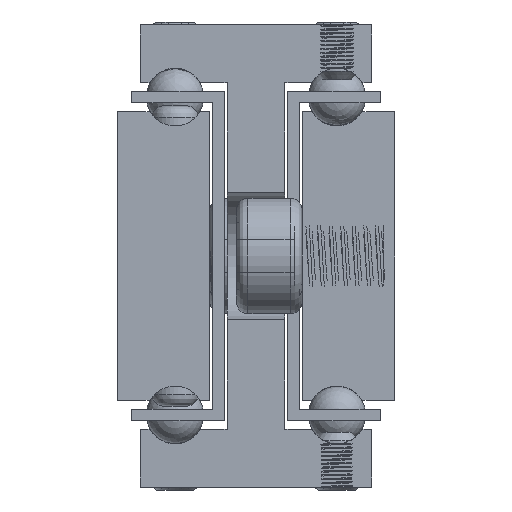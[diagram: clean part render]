
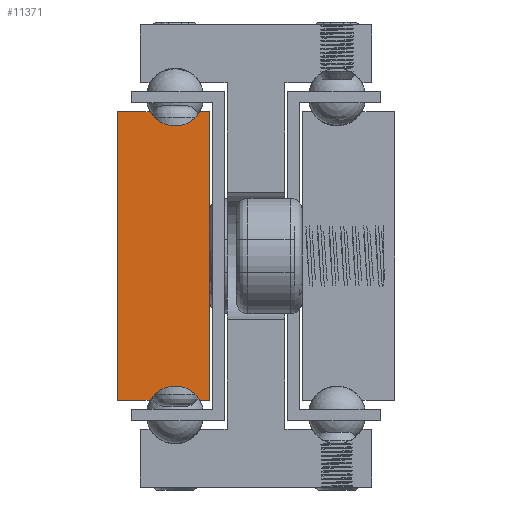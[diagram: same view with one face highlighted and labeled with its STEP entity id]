
A CAD part, front view. The second image highlights one B-rep face of the part: STEP entity #11371.
In plain terms, the highlighted planar face has unit normal (0, -1, 0).
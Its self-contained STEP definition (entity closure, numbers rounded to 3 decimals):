
#598=LINE('',#16082,#1672);
#601=LINE('',#16088,#1675);
#605=LINE('',#16100,#1679);
#608=LINE('',#16106,#1682);
#611=LINE('',#16112,#1685);
#615=LINE('',#16122,#1689);
#1672=VECTOR('',#13146,1.);
#1675=VECTOR('',#13151,1.);
#1679=VECTOR('',#13163,1.);
#1682=VECTOR('',#13168,1.);
#1685=VECTOR('',#13173,1.);
#1689=VECTOR('',#13185,1.);
#2751=PLANE('',#12203);
#3477=FACE_OUTER_BOUND('',#4197,.T.);
#4197=EDGE_LOOP('',(#8216,#8217,#8218,#8219,#8220,#8221,#8222,#8223));
#5145=CIRCLE('',#12194,2.5);
#5147=CIRCLE('',#12200,2.5);
#5432=VERTEX_POINT('',#16079);
#5433=VERTEX_POINT('',#16081);
#5435=VERTEX_POINT('',#16087);
#5437=VERTEX_POINT('',#16093);
#5439=VERTEX_POINT('',#16099);
#5441=VERTEX_POINT('',#16105);
#5443=VERTEX_POINT('',#16111);
#5445=VERTEX_POINT('',#16117);
#6614=EDGE_CURVE('',#5433,#5432,#598,.T.);
#6617=EDGE_CURVE('',#5435,#5433,#601,.T.);
#6620=EDGE_CURVE('',#5437,#5435,#5145,.T.);
#6623=EDGE_CURVE('',#5439,#5437,#605,.T.);
#6626=EDGE_CURVE('',#5441,#5439,#608,.T.);
#6629=EDGE_CURVE('',#5443,#5441,#611,.T.);
#6632=EDGE_CURVE('',#5445,#5443,#5147,.T.);
#6635=EDGE_CURVE('',#5432,#5445,#615,.T.);
#8216=ORIENTED_EDGE('',*,*,#6635,.T.);
#8217=ORIENTED_EDGE('',*,*,#6632,.T.);
#8218=ORIENTED_EDGE('',*,*,#6629,.T.);
#8219=ORIENTED_EDGE('',*,*,#6626,.T.);
#8220=ORIENTED_EDGE('',*,*,#6623,.T.);
#8221=ORIENTED_EDGE('',*,*,#6620,.T.);
#8222=ORIENTED_EDGE('',*,*,#6617,.T.);
#8223=ORIENTED_EDGE('',*,*,#6614,.T.);
#11371=ADVANCED_FACE('',(#3477),#2751,.T.);
#12194=AXIS2_PLACEMENT_3D('',#16094,#13157,#13158);
#12200=AXIS2_PLACEMENT_3D('',#16118,#13179,#13180);
#12203=AXIS2_PLACEMENT_3D('',#16124,#13188,#13189);
#13146=DIRECTION('',(0.,0.,-1.));
#13151=DIRECTION('',(-1.,0.,0.));
#13157=DIRECTION('center_axis',(0.,1.,0.));
#13158=DIRECTION('ref_axis',(-0.866,0.,-0.5));
#13163=DIRECTION('',(-1.,0.,0.));
#13168=DIRECTION('',(0.,0.,1.));
#13173=DIRECTION('',(1.,0.,0.));
#13179=DIRECTION('center_axis',(0.,1.,0.));
#13180=DIRECTION('ref_axis',(0.866,0.,0.5));
#13185=DIRECTION('',(1.,0.,0.));
#13188=DIRECTION('center_axis',(0.,-1.,0.));
#13189=DIRECTION('ref_axis',(1.,0.,0.));
#16079=CARTESIAN_POINT('',(976.241,1115.626,437.5));
#16081=CARTESIAN_POINT('',(976.241,1115.626,462.5));
#16082=CARTESIAN_POINT('',(976.241,1115.626,437.5));
#16087=CARTESIAN_POINT('',(979.076,1115.626,462.5));
#16088=CARTESIAN_POINT('',(976.241,1115.626,462.5));
#16093=CARTESIAN_POINT('',(983.406,1115.626,462.5));
#16094=CARTESIAN_POINT('Origin',(981.241,1115.626,463.75));
#16099=CARTESIAN_POINT('',(984.241,1115.626,462.5));
#16100=CARTESIAN_POINT('',(983.406,1115.626,462.5));
#16105=CARTESIAN_POINT('',(984.241,1115.626,437.5));
#16106=CARTESIAN_POINT('',(984.241,1115.626,462.5));
#16111=CARTESIAN_POINT('',(983.406,1115.626,437.5));
#16112=CARTESIAN_POINT('',(984.241,1115.626,437.5));
#16117=CARTESIAN_POINT('',(979.076,1115.626,437.5));
#16118=CARTESIAN_POINT('Origin',(981.241,1115.626,436.25));
#16122=CARTESIAN_POINT('',(979.076,1115.626,437.5));
#16124=CARTESIAN_POINT('Origin',(980.229,1115.626,450.));
